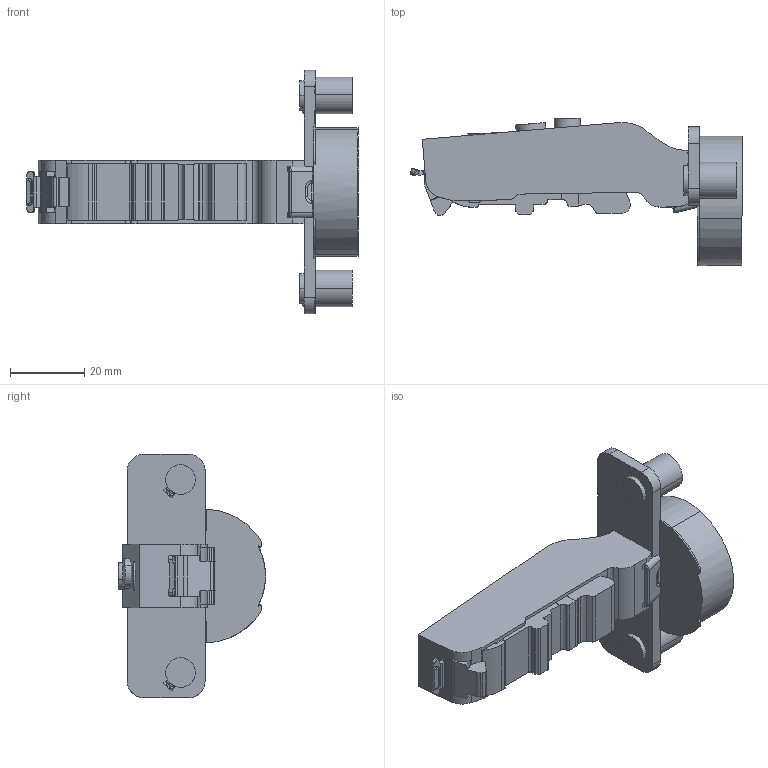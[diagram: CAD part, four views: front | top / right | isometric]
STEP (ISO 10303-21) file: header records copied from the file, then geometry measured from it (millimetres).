
FILE_DESCRIPTION (( 'STEP AP203' ), '1' );
FILE_NAME ('C81A877FABT0 DTC 3D CLOSE.STEP', '2024-07-24T05:09:00', ( '微软用户' ), ( '微软中国' ), 'SwSTEP 2.0', 'SolidWorks 2021', '' );
FILE_SCHEMA (( 'CONFIG_CONTROL_DESIGN' ));
Length unit declared in the file: millimetre
Products named in the file (1): C81A877FABT0 DTC 3D CLOSE
Bounding box: 89.46 x 39.64 x 65.6 mm (x, y, z)
Volume: 40706.6 mm3; surface area: 12045.1 mm2
Topology: 1 solids, 2 shells, 450 faces, 1275 edges, 830 vertices
Faces by surface type: plane 202, cylinder 161, bspline 39, torus 38, cone 6, sphere 4
Entity records: 16418 total; most frequent: CARTESIAN_POINT 4919, ORIENTED_EDGE 2550, DIRECTION 2230, EDGE_CURVE 1275, VERTEX_POINT 830, AXIS2_PLACEMENT_3D 765, VECTOR 700, LINE 700
